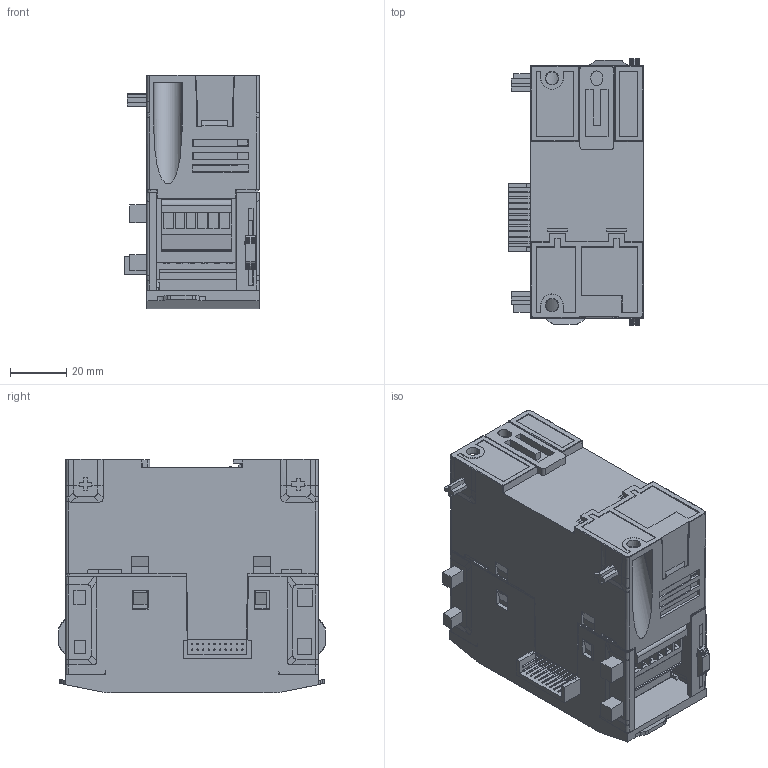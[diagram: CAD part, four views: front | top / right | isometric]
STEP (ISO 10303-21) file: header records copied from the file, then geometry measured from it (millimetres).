
FILE_DESCRIPTION((''),'2;1');
FILE_NAME('8TOP','2022-10-26T16:44:58',('flexem'),(''),'CREO PARAMETRIC BY PTC INC, 2016510','CREO PARAMETRIC BY PTC INC, 2016510','');
FILE_SCHEMA(('CONFIG_CONTROL_DESIGN'));
Length unit declared in the file: millimetre
Products named in the file (1): 8TOP
Bounding box: 48.15 x 95 x 83.4 mm (x, y, z)
Volume: 266151.4 mm3; surface area: 49868.1 mm2
Topology: 1 solids, 27 shells, 1707 faces, 4556 edges, 2971 vertices
Faces by surface type: plane 1351, cylinder 285, cone 27, bspline 21, sphere 12, torus 10, extrusion 1
Entity records: 54056 total; most frequent: CARTESIAN_POINT 11613, ORIENTED_EDGE 9090, DIRECTION 8065, EDGE_CURVE 4545, VECTOR 3755, LINE 3754, VERTEX_POINT 2972, AXIS2_PLACEMENT_3D 2155
